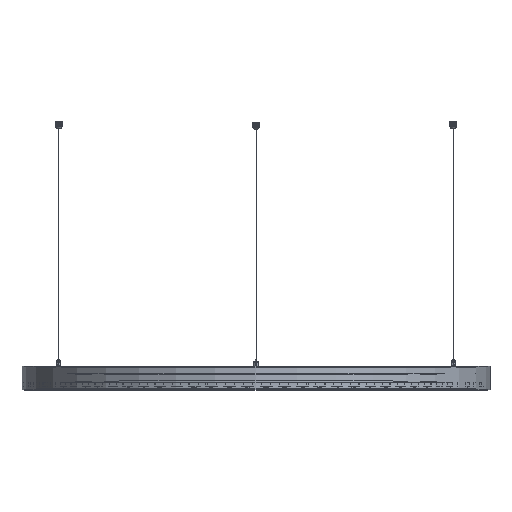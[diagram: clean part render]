
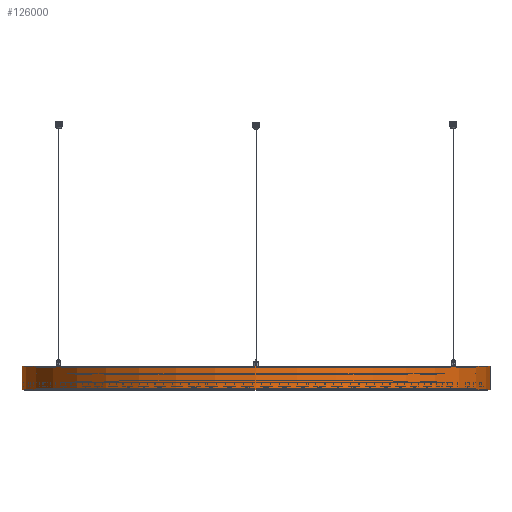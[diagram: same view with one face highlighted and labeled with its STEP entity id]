
A CAD part, top view. The second image highlights one B-rep face of the part: STEP entity #126000.
In plain terms, the highlighted cylindrical face has radius 497.35 mm (diameter 994.7 mm), a partial arc.
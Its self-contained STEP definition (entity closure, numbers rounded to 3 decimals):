
#3606 = LINE ( 'NONE', #24850, #56038 ) ;
#4178 = DIRECTION ( 'NONE',  ( 0., -1., 0. ) ) ;
#4337 = CIRCLE ( 'NONE', #80938, 497.35 ) ;
#7822 = VECTOR ( 'NONE', #9758, 1000. ) ;
#9758 = DIRECTION ( 'NONE',  ( 0., -1., 0. ) ) ;
#9826 = CARTESIAN_POINT ( 'NONE',  ( 0., 0., 0. ) ) ;
#17244 = AXIS2_PLACEMENT_3D ( 'NONE', #134251, #41511, #114603 ) ;
#22925 = CARTESIAN_POINT ( 'NONE',  ( 497.35, 50., 0. ) ) ;
#24850 = CARTESIAN_POINT ( 'NONE',  ( -497.35, 50., 0. ) ) ;
#25627 = CARTESIAN_POINT ( 'NONE',  ( 497.35, 0., 0. ) ) ;
#40625 = CIRCLE ( 'NONE', #17244, 497.35 ) ;
#41313 = VERTEX_POINT ( 'NONE', #94968 ) ;
#41511 = DIRECTION ( 'NONE',  ( 0., -1., 0. ) ) ;
#49418 = ORIENTED_EDGE ( 'NONE', *, *, #103186, .F. ) ;
#55755 = ORIENTED_EDGE ( 'NONE', *, *, #82613, .F. ) ;
#56038 = VECTOR ( 'NONE', #108423, 1000. ) ;
#59273 = CYLINDRICAL_SURFACE ( 'NONE', #59387, 497.35 ) ;
#59387 = AXIS2_PLACEMENT_3D ( 'NONE', #9826, #114077, #113181 ) ;
#60875 = FACE_OUTER_BOUND ( 'NONE', #77840, .T. ) ;
#64952 = VERTEX_POINT ( 'NONE', #25627 ) ;
#67270 = VERTEX_POINT ( 'NONE', #124216 ) ;
#68347 = LINE ( 'NONE', #71489, #7822 ) ;
#71489 = CARTESIAN_POINT ( 'NONE',  ( 497.35, 50., 0. ) ) ;
#73442 = EDGE_CURVE ( 'NONE', #74583, #67270, #4337, .T. ) ;
#74583 = VERTEX_POINT ( 'NONE', #22925 ) ;
#77840 = EDGE_LOOP ( 'NONE', ( #55755, #49418, #101892, #82273 ) ) ;
#80938 = AXIS2_PLACEMENT_3D ( 'NONE', #131674, #4178, #130334 ) ;
#82273 = ORIENTED_EDGE ( 'NONE', *, *, #124878, .T. ) ;
#82613 = EDGE_CURVE ( 'NONE', #64952, #41313, #40625, .T. ) ;
#94968 = CARTESIAN_POINT ( 'NONE',  ( -497.35, 0., 0. ) ) ;
#101892 = ORIENTED_EDGE ( 'NONE', *, *, #73442, .T. ) ;
#103186 = EDGE_CURVE ( 'NONE', #74583, #64952, #68347, .T. ) ;
#108423 = DIRECTION ( 'NONE',  ( 0., -1., 0. ) ) ;
#113181 = DIRECTION ( 'NONE',  ( 0., 0., -1. ) ) ;
#114077 = DIRECTION ( 'NONE',  ( 0., 1., 0. ) ) ;
#114603 = DIRECTION ( 'NONE',  ( 1., 0., 0. ) ) ;
#124216 = CARTESIAN_POINT ( 'NONE',  ( -497.35, 50., 0. ) ) ;
#124878 = EDGE_CURVE ( 'NONE', #67270, #41313, #3606, .T. ) ;
#126000 = ADVANCED_FACE ( 'NONE', ( #60875 ), #59273, .T. ) ;
#130334 = DIRECTION ( 'NONE',  ( 1., 0., 0. ) ) ;
#131674 = CARTESIAN_POINT ( 'NONE',  ( 0., 50., 0. ) ) ;
#134251 = CARTESIAN_POINT ( 'NONE',  ( 0., 0., 0. ) ) ;
